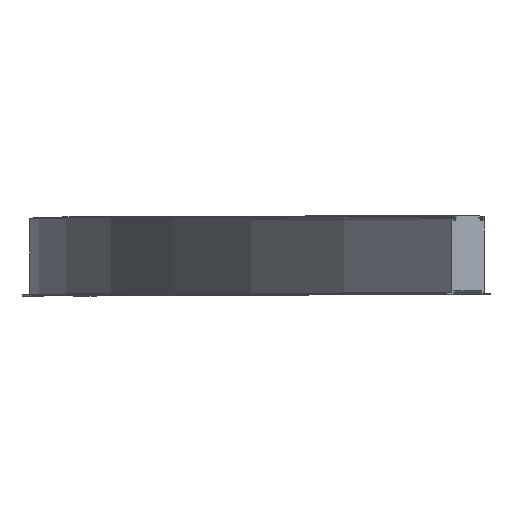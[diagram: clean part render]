
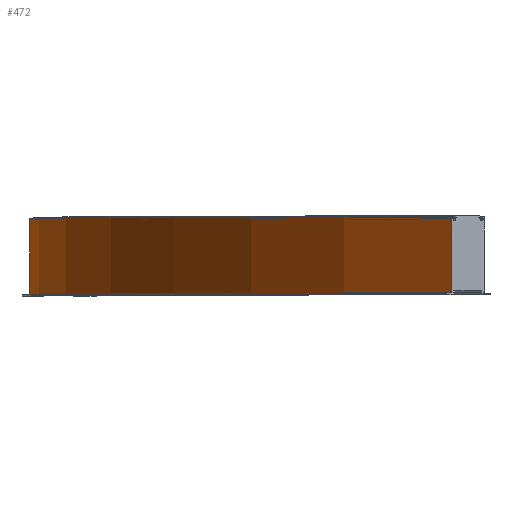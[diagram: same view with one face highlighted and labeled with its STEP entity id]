
A CAD part, top view. The second image highlights one B-rep face of the part: STEP entity #472.
In plain terms, the highlighted cylindrical face has radius 1473.5 mm (diameter 2947 mm), a partial arc.
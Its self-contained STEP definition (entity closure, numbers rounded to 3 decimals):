
#9 = CARTESIAN_POINT ( 'NONE',  ( 408.078, 79.5, 1041.922 ) ) ;
#13 = ORIENTED_EDGE ( 'NONE', *, *, #1163, .F. ) ;
#52 = CARTESIAN_POINT ( 'NONE',  ( 1450., 0., 0. ) ) ;
#129 = VERTEX_POINT ( 'NONE', #1496 ) ;
#140 = DIRECTION ( 'NONE',  ( -1., 0., 0. ) ) ;
#157 = VECTOR ( 'NONE', #419, 1000. ) ;
#167 = FACE_OUTER_BOUND ( 'NONE', #1386, .T. ) ;
#205 = VERTEX_POINT ( 'NONE', #9 ) ;
#367 = CARTESIAN_POINT ( 'NONE',  ( -23.5, 1.8, 0. ) ) ;
#419 = DIRECTION ( 'NONE',  ( 0., -1., 0. ) ) ;
#440 = ORIENTED_EDGE ( 'NONE', *, *, #1491, .T. ) ;
#472 = ADVANCED_FACE ( 'NONE', ( #167 ), #1542, .T. ) ;
#563 = LINE ( 'NONE', #1747, #861 ) ;
#606 = CIRCLE ( 'NONE', #1107, 1473.5 ) ;
#823 = DIRECTION ( 'NONE',  ( 0., 0., 1. ) ) ;
#826 = ORIENTED_EDGE ( 'NONE', *, *, #1065, .T. ) ;
#841 = DIRECTION ( 'NONE',  ( 0., 1., 0. ) ) ;
#861 = VECTOR ( 'NONE', #1900, 1000. ) ;
#878 = CARTESIAN_POINT ( 'NONE',  ( 1450., 79.5, 0. ) ) ;
#1012 = CARTESIAN_POINT ( 'NONE',  ( 408.078, 1.8, 1041.922 ) ) ;
#1038 = DIRECTION ( 'NONE',  ( 0., 1., 0. ) ) ;
#1041 = EDGE_CURVE ( 'NONE', #205, #129, #1153, .T. ) ;
#1065 = EDGE_CURVE ( 'NONE', #1382, #1290, #563, .T. ) ;
#1107 = AXIS2_PLACEMENT_3D ( 'NONE', #878, #1038, #140 ) ;
#1153 = LINE ( 'NONE', #1012, #157 ) ;
#1163 = EDGE_CURVE ( 'NONE', #1382, #205, #606, .T. ) ;
#1181 = AXIS2_PLACEMENT_3D ( 'NONE', #52, #1548, #823 ) ;
#1240 = DIRECTION ( 'NONE',  ( -1., 0., 0. ) ) ;
#1253 = CIRCLE ( 'NONE', #1786, 1473.5 ) ;
#1278 = CARTESIAN_POINT ( 'NONE',  ( 1450., 1.8, 0. ) ) ;
#1290 = VERTEX_POINT ( 'NONE', #367 ) ;
#1382 = VERTEX_POINT ( 'NONE', #1780 ) ;
#1386 = EDGE_LOOP ( 'NONE', ( #440, #1580, #13, #826 ) ) ;
#1491 = EDGE_CURVE ( 'NONE', #1290, #129, #1253, .T. ) ;
#1496 = CARTESIAN_POINT ( 'NONE',  ( 408.078, 1.8, 1041.922 ) ) ;
#1542 = CYLINDRICAL_SURFACE ( 'NONE', #1181, 1473.5 ) ;
#1548 = DIRECTION ( 'NONE',  ( 0., 1., 0. ) ) ;
#1580 = ORIENTED_EDGE ( 'NONE', *, *, #1041, .F. ) ;
#1747 = CARTESIAN_POINT ( 'NONE',  ( -23.5, 1.8, 0. ) ) ;
#1780 = CARTESIAN_POINT ( 'NONE',  ( -23.5, 79.5, 0. ) ) ;
#1786 = AXIS2_PLACEMENT_3D ( 'NONE', #1278, #841, #1240 ) ;
#1900 = DIRECTION ( 'NONE',  ( 0., -1., 0. ) ) ;
